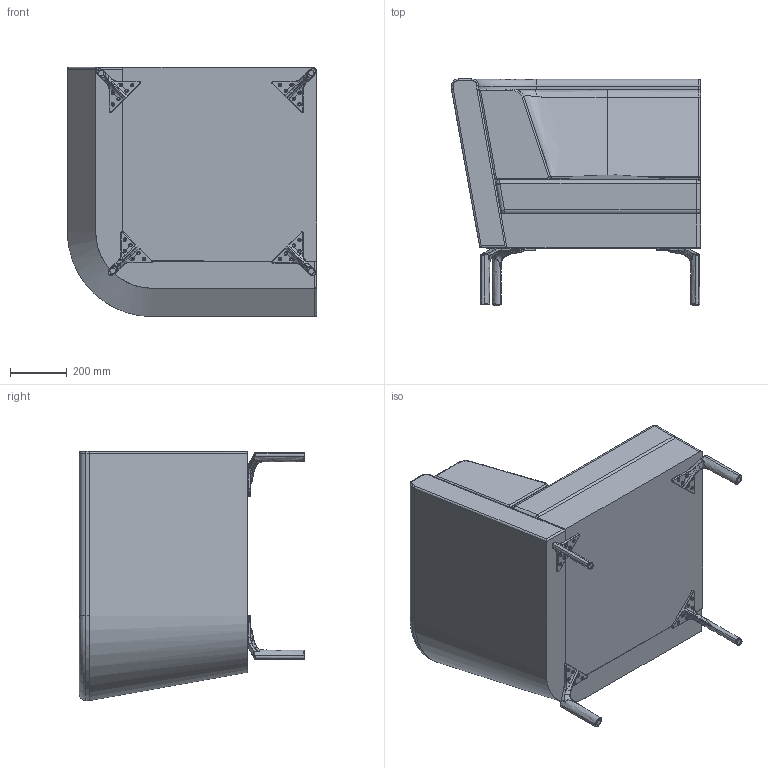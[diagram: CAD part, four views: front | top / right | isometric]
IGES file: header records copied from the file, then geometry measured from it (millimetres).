
Start section: SolidWorks IGES file using analytic representation for surfaces
Global section: file name: P:\3D CAD BLOCKS\ENTENTE\ENT8L ENTENTE CORNER LOW BACK\ENT8L ENTENTE CORNER LOW BACK.IGS; native system: SolidWorks 2012; preprocessor: SolidWorks 2012; author: adam; date: 140710.123114; units: millimetre
Bounding box: 880 x 797.5 x 880 mm (x, y, z)
Surface area: 6277052.9 mm2 (no closed solid volume)
Topology: 0 solids, 0 shells, 610 faces, 7454 edges, 7446 vertices
Faces by surface type: bspline 338, revolution 272
